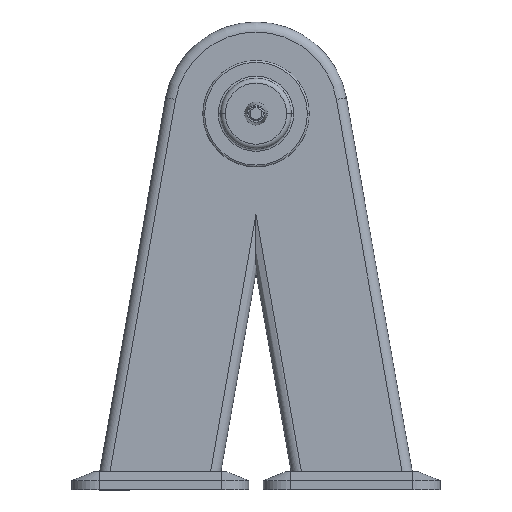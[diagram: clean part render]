
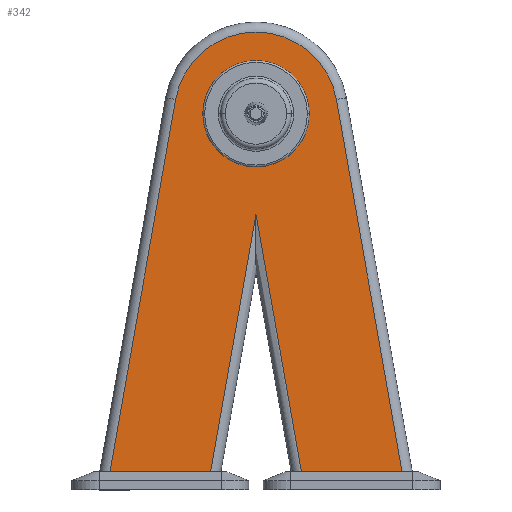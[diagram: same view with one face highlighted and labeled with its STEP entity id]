
A CAD part, top view. The second image highlights one B-rep face of the part: STEP entity #342.
In plain terms, the highlighted planar face has unit normal (0, 0, 1).
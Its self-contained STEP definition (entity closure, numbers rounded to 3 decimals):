
#106 = CIRCLE ( 'NONE', #3624, 58. ) ;
#107 = EDGE_LOOP ( 'NONE', ( #3175, #2724 ) ) ;
#220 = DIRECTION ( 'NONE',  ( -1., 0., 0. ) ) ;
#248 = EDGE_CURVE ( 'NONE', #1490, #314, #2896, .T. ) ;
#269 = CARTESIAN_POINT ( 'NONE',  ( -87.648, 425.455, 63. ) ) ;
#296 = DIRECTION ( 'NONE',  ( 0., 0., 1. ) ) ;
#314 = VERTEX_POINT ( 'NONE', #1979 ) ;
#342 = ADVANCED_FACE ( 'NONE', ( #4174, #3654 ), #1811, .T. ) ;
#434 = DIRECTION ( 'NONE',  ( -0.174, 0.985, 0. ) ) ;
#476 = EDGE_CURVE ( 'NONE', #702, #738, #2473, .T. ) ;
#518 = CARTESIAN_POINT ( 'NONE',  ( 87.648, 425.455, 63. ) ) ;
#521 = CARTESIAN_POINT ( 'NONE',  ( 159.14, 20., 63. ) ) ;
#537 = VERTEX_POINT ( 'NONE', #521 ) ;
#607 = AXIS2_PLACEMENT_3D ( 'NONE', #1830, #1752, #1859 ) ;
#633 = LINE ( 'NONE', #3639, #1578 ) ;
#702 = VERTEX_POINT ( 'NONE', #4203 ) ;
#723 = ORIENTED_EDGE ( 'NONE', *, *, #3562, .T. ) ;
#738 = VERTEX_POINT ( 'NONE', #4088 ) ;
#800 = LINE ( 'NONE', #2536, #2663 ) ;
#817 = CARTESIAN_POINT ( 'NONE',  ( -164.062, -7.91, 63. ) ) ;
#841 = DIRECTION ( 'NONE',  ( 0., 0., 1. ) ) ;
#881 = DIRECTION ( 'NONE',  ( 1., 0., 0. ) ) ;
#957 = CARTESIAN_POINT ( 'NONE',  ( 0., 410., 63. ) ) ;
#1261 = DIRECTION ( 'NONE',  ( 0.174, 0.985, 0. ) ) ;
#1280 = VERTEX_POINT ( 'NONE', #2334 ) ;
#1384 = ORIENTED_EDGE ( 'NONE', *, *, #3769, .T. ) ;
#1420 = CARTESIAN_POINT ( 'NONE',  ( 55.587, -14.664, 63. ) ) ;
#1423 = DIRECTION ( 'NONE',  ( 1., 0., 0. ) ) ;
#1429 = DIRECTION ( 'NONE',  ( 0., 0., 1. ) ) ;
#1434 = CARTESIAN_POINT ( 'NONE',  ( 0., 410., 63. ) ) ;
#1490 = VERTEX_POINT ( 'NONE', #1683 ) ;
#1521 = CARTESIAN_POINT ( 'NONE',  ( 49.474, 20., 63. ) ) ;
#1522 = VECTOR ( 'NONE', #1781, 1000. ) ;
#1564 = VERTEX_POINT ( 'NONE', #1521 ) ;
#1578 = VECTOR ( 'NONE', #1261, 1000. ) ;
#1583 = EDGE_CURVE ( 'NONE', #738, #702, #106, .T. ) ;
#1683 = CARTESIAN_POINT ( 'NONE',  ( -49.474, 20., 63. ) ) ;
#1752 = DIRECTION ( 'NONE',  ( 0., 0., 1. ) ) ;
#1781 = DIRECTION ( 'NONE',  ( 0.174, -0.985, 0. ) ) ;
#1811 = PLANE ( 'NONE',  #607 ) ;
#1821 = CIRCLE ( 'NONE', #3862, 89. ) ;
#1830 = CARTESIAN_POINT ( 'NONE',  ( 0., 410., 63. ) ) ;
#1859 = DIRECTION ( 'NONE',  ( 1., 0., 0. ) ) ;
#1953 = VERTEX_POINT ( 'NONE', #518 ) ;
#1979 = CARTESIAN_POINT ( 'NONE',  ( -159.14, 20., 63. ) ) ;
#2025 = VERTEX_POINT ( 'NONE', #269 ) ;
#2177 = ORIENTED_EDGE ( 'NONE', *, *, #3966, .F. ) ;
#2200 = LINE ( 'NONE', #817, #3112 ) ;
#2334 = CARTESIAN_POINT ( 'NONE',  ( 0., 300.583, 63. ) ) ;
#2384 = CARTESIAN_POINT ( 'NONE',  ( 0., 410., 63. ) ) ;
#2386 = DIRECTION ( 'NONE',  ( -1., 0., 0. ) ) ;
#2388 = CARTESIAN_POINT ( 'NONE',  ( 0., 20., 63. ) ) ;
#2473 = CIRCLE ( 'NONE', #2716, 58. ) ;
#2536 = CARTESIAN_POINT ( 'NONE',  ( 87.648, 425.455, 63. ) ) ;
#2661 = ORIENTED_EDGE ( 'NONE', *, *, #3359, .T. ) ;
#2663 = VECTOR ( 'NONE', #434, 1000. ) ;
#2716 = AXIS2_PLACEMENT_3D ( 'NONE', #957, #841, #881 ) ;
#2724 = ORIENTED_EDGE ( 'NONE', *, *, #1583, .F. ) ;
#2730 = DIRECTION ( 'NONE',  ( 1., 0., 0. ) ) ;
#2828 = VECTOR ( 'NONE', #220, 1000. ) ;
#2896 = LINE ( 'NONE', #2388, #3750 ) ;
#2918 = DIRECTION ( 'NONE',  ( -0.174, -0.985, 0. ) ) ;
#3111 = EDGE_LOOP ( 'NONE', ( #3681, #4079, #3340, #2177, #1384, #723, #2661 ) ) ;
#3112 = VECTOR ( 'NONE', #2918, 1000. ) ;
#3175 = ORIENTED_EDGE ( 'NONE', *, *, #476, .F. ) ;
#3340 = ORIENTED_EDGE ( 'NONE', *, *, #4169, .T. ) ;
#3359 = EDGE_CURVE ( 'NONE', #2025, #314, #2200, .T. ) ;
#3562 = EDGE_CURVE ( 'NONE', #1953, #2025, #1821, .T. ) ;
#3593 = LINE ( 'NONE', #3656, #2828 ) ;
#3624 = AXIS2_PLACEMENT_3D ( 'NONE', #1434, #1429, #1423 ) ;
#3639 = CARTESIAN_POINT ( 'NONE',  ( -10.833, 239.147, 63. ) ) ;
#3654 = FACE_OUTER_BOUND ( 'NONE', #3111, .T. ) ;
#3656 = CARTESIAN_POINT ( 'NONE',  ( 0., 20., 63. ) ) ;
#3681 = ORIENTED_EDGE ( 'NONE', *, *, #248, .F. ) ;
#3750 = VECTOR ( 'NONE', #2386, 1000. ) ;
#3769 = EDGE_CURVE ( 'NONE', #537, #1953, #800, .T. ) ;
#3862 = AXIS2_PLACEMENT_3D ( 'NONE', #2384, #296, #2730 ) ;
#3966 = EDGE_CURVE ( 'NONE', #537, #1564, #3593, .T. ) ;
#4079 = ORIENTED_EDGE ( 'NONE', *, *, #4376, .T. ) ;
#4088 = CARTESIAN_POINT ( 'NONE',  ( 58., 410., 63. ) ) ;
#4159 = LINE ( 'NONE', #1420, #1522 ) ;
#4169 = EDGE_CURVE ( 'NONE', #1280, #1564, #4159, .T. ) ;
#4174 = FACE_BOUND ( 'NONE', #107, .T. ) ;
#4203 = CARTESIAN_POINT ( 'NONE',  ( -58., 410., 63. ) ) ;
#4376 = EDGE_CURVE ( 'NONE', #1490, #1280, #633, .T. ) ;
